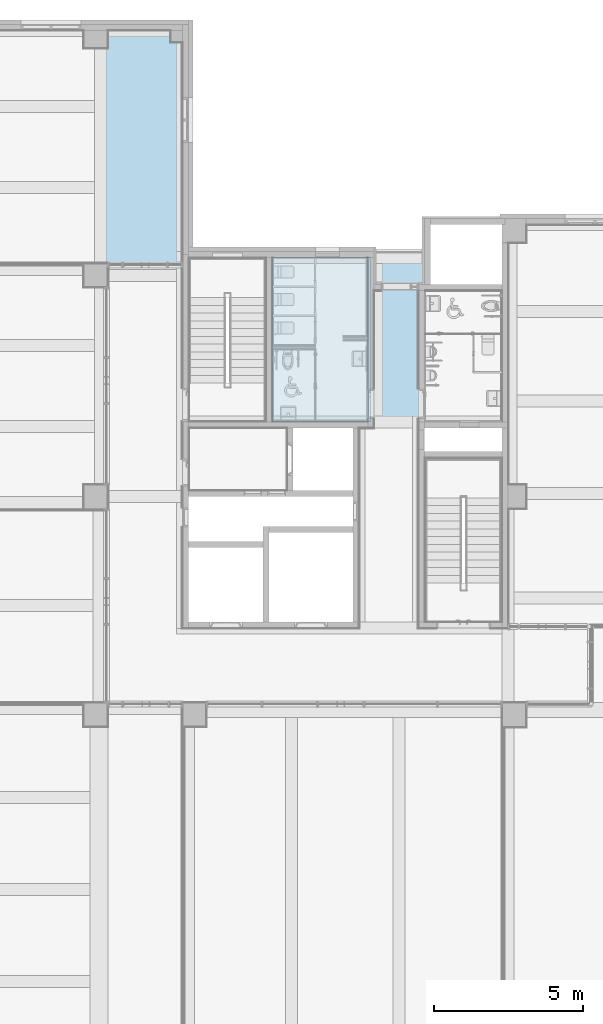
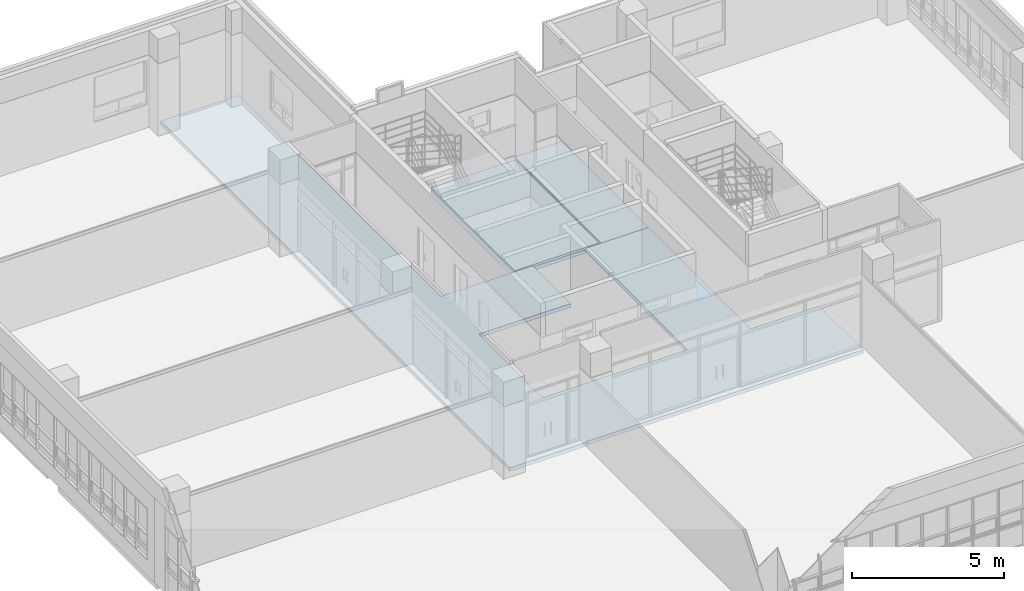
# One storey, part 29 of 81: 4 slabs.
"""IFC2X3 building model written with IfcOpenShell, lengths in millimetres."""

from ifc_helpers import new_model, entity, si_unit, converted_unit, derived_unit, direction, frame, frame_2d, origin, place, context, subcontext, project, spatial, polyline, rectangle, outline, extrude, material, layer, layer_set, layer_usage, type_object, element, save


model = new_model("IFC2X3")

# Units and contexts
model_context = context("Model", 3, precision=0.01, world=origin(), true_north=direction((6.123031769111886e-17, 1.0)))
body_context = subcontext(model_context, "Body", "Model", "MODEL_VIEW")
ifc_project = project(units=[si_unit("LENGTHUNIT", "METRE", prefix="MILLI"), si_unit("AREAUNIT", "SQUARE_METRE"), si_unit("VOLUMEUNIT", "CUBIC_METRE"), converted_unit("PLANEANGLEUNIT", "DEGREE", entity("IfcRatioMeasure", 0.017453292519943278), si_unit("PLANEANGLEUNIT", "RADIAN"), dimensions=[0, 0, 0, 0, 0, 0, 0]), si_unit("MASSUNIT", "GRAM", prefix="KILO"), derived_unit("MASSDENSITYUNIT", [(si_unit("MASSUNIT", "GRAM", prefix="KILO"), 1), (si_unit("LENGTHUNIT", "METRE"), -3)]), derived_unit("MOMENTOFINERTIAUNIT", [(si_unit("LENGTHUNIT", "METRE"), 4)]), si_unit("TIMEUNIT", "SECOND"), si_unit("FREQUENCYUNIT", "HERTZ"), si_unit("THERMODYNAMICTEMPERATUREUNIT", "DEGREE_CELSIUS"), derived_unit("THERMALTRANSMITTANCEUNIT", [(si_unit("MASSUNIT", "GRAM", prefix="KILO"), 1), (si_unit("THERMODYNAMICTEMPERATUREUNIT", "KELVIN"), -1), (si_unit("TIMEUNIT", "SECOND"), -3)]), derived_unit("VOLUMETRICFLOWRATEUNIT", [(si_unit("LENGTHUNIT", "METRE"), 3), (si_unit("TIMEUNIT", "SECOND"), -1)]), derived_unit("MASSFLOWRATEUNIT", [(si_unit("MASSUNIT", "GRAM", prefix="KILO"), 1), (si_unit("TIMEUNIT", "SECOND"), -1)]), derived_unit("ROTATIONALFREQUENCYUNIT", [(si_unit("TIMEUNIT", "SECOND"), -1)]), si_unit("ELECTRICCURRENTUNIT", "AMPERE"), si_unit("ELECTRICVOLTAGEUNIT", "VOLT"), si_unit("POWERUNIT", "WATT"), si_unit("FORCEUNIT", "NEWTON", prefix="KILO"), si_unit("ILLUMINANCEUNIT", "LUX"), si_unit("LUMINOUSFLUXUNIT", "LUMEN"), si_unit("LUMINOUSINTENSITYUNIT", "CANDELA"), derived_unit("USERDEFINED", [(si_unit("MASSUNIT", "GRAM", prefix="KILO"), -1), (si_unit("LENGTHUNIT", "METRE"), -2), (si_unit("TIMEUNIT", "SECOND"), 3), (si_unit("LUMINOUSFLUXUNIT", "LUMEN"), 1)]), derived_unit("SOUNDPOWERUNIT", [(si_unit("MASSUNIT", "GRAM", prefix="KILO"), 1), (si_unit("LENGTHUNIT", "METRE"), 2), (si_unit("TIMEUNIT", "SECOND"), -3)]), derived_unit("SOUNDPRESSUREUNIT", [(si_unit("MASSUNIT", "GRAM", prefix="KILO"), 1), (si_unit("LENGTHUNIT", "METRE"), -1), (si_unit("TIMEUNIT", "SECOND"), -2)]), derived_unit("LINEARVELOCITYUNIT", [(si_unit("LENGTHUNIT", "METRE"), 1), (si_unit("TIMEUNIT", "SECOND"), -1)]), si_unit("PRESSUREUNIT", "PASCAL"), derived_unit("USERDEFINED", [(si_unit("LENGTHUNIT", "METRE"), -2), (si_unit("MASSUNIT", "GRAM", prefix="KILO"), 1), (si_unit("TIMEUNIT", "SECOND"), -2)]), derived_unit("LINEARFORCEUNIT", [(si_unit("MASSUNIT", "GRAM", prefix="KILO"), 1), (si_unit("LENGTHUNIT", "METRE"), 1), (si_unit("TIMEUNIT", "SECOND"), -2), (si_unit("LENGTHUNIT", "METRE"), -1)]), derived_unit("PLANARFORCEUNIT", [(si_unit("MASSUNIT", "GRAM", prefix="KILO"), 1), (si_unit("LENGTHUNIT", "METRE"), 1), (si_unit("TIMEUNIT", "SECOND"), -2), (si_unit("LENGTHUNIT", "METRE"), -2)])], contexts=[model_context])

# Site, building, storey
site_placement = place(None, frame((-14167.972527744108, -657.2125860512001, 0.0)))
site = spatial("IfcSite", under=ifc_project, at=site_placement, Name="Default", CompositionType="ELEMENT")
building_placement = place(site_placement, origin())
building = spatial("IfcBuilding", under=site, at=building_placement, Name="Sample Building", CompositionType="ELEMENT")
storey_placement = place(building_placement, frame((0.0, 0.0, 13400.0)))
storey = spatial("IfcBuildingStorey", under=building, at=storey_placement, Name="지상 4층", CompositionType="ELEMENT", Elevation=13400.00000000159)

# Slabs
ifc_material_1 = material(Name="KBIMS-콘크리트")
ifc_layer_1 = layer(ifc_material_1, 150.0)
ifc_layer_set_1 = layer_set([ifc_layer_1], Name="바닥:SL111-철근콘크리트구조 바닥 150mm_S3")
ifc_layer_usage_1 = layer_usage(ifc_layer_set_1, "AXIS3", "POSITIVE", 0.0)
slab_type_1 = type_object("IfcSlabType", Name="바닥:SL111-철근콘크리트구조 바닥 150mm_S3", PredefinedType="FLOOR", material=ifc_layer_set_1)
slab_1_placement = place(storey_placement, origin())
element("IfcSlab", 1, at=slab_1_placement, inside=storey, type_object=slab_type_1, material=ifc_layer_usage_1, Name="바닥:SL111-철근콘크리트구조 바닥 150mm_S3", ObjectType="바닥:SL111-철근콘크리트구조 바닥 150mm_S3", PredefinedType="FLOOR", context=body_context, shape_type="SweptSolid", body=[
    extrude(outline(polyline([(-6919.374998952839, -6006.152322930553), (16030.625001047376, -6006.152322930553), (16030.625001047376, -3056.267710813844), (2730.6250172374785, -3056.2677108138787), (2730.6250172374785, 443.74101878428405), (230.62501389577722, 443.74101878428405), (230.62501389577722, -3056.267674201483), (-3969.3749989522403, -3056.267674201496), (-3969.3749989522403, 2443.7410187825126), (2730.625017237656, 2443.7410187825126), (2730.625017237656, 4843.732325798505), (-3964.375052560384, 4843.732325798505), (-3964.375052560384, 7443.741018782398), (-6869.374998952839, 7443.741018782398), (-6869.374998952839, -3056.2676742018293), (-6919.374998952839, -3056.2676742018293), (-6919.374998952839, -6006.152322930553)])), frame((33324.2314723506, 19726.587294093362, 0.0), z_axis=(0.0, 0.0, -1.0), x_axis=(0.0, 1.0, 0.0)), (0.0, 0.0, 1.0), 150.00000000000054),
])
ifc_layer_2 = layer(ifc_material_1, 150.0)
ifc_layer_set_2 = layer_set([ifc_layer_2], Name="바닥:SL111-철근콘크리트구조 바닥 150mm_S4")
ifc_layer_usage_2 = layer_usage(ifc_layer_set_2, "AXIS3", "POSITIVE", 0.0)
slab_type_2 = type_object("IfcSlabType", Name="바닥:SL111-철근콘크리트구조 바닥 150mm_S4", PredefinedType="FLOOR", material=ifc_layer_set_2)
slab_2_placement = place(storey_placement, origin())
element("IfcSlab", 2, at=slab_2_placement, inside=storey, type_object=slab_type_2, material=ifc_layer_usage_2, Name="바닥:SL111-철근콘크리트구조 바닥 150mm_S4", ObjectType="바닥:SL111-철근콘크리트구조 바닥 150mm_S4", PredefinedType="FLOOR", context=body_context, shape_type="SweptSolid", body=[
    extrude(rectangle(XDim=5699.999805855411, YDim=1799.9825708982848, at=frame_2d((-2.2737367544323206e-12, 0.0), x_axis=(1.0, 0.0))), frame((37267.963776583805, 25307.212214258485, 0.0), z_axis=(0.0, 0.0, -1.0), x_axis=(0.0, 1.0, 0.0)), (0.0, 0.0, 1.0), 150.00000000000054),
])
ifc_layer_usage_3 = layer_usage(ifc_layer_set_2, "AXIS3", "POSITIVE", 0.0)
slab_type_3 = type_object("IfcSlabType", Name="바닥:SL111-철근콘크리트구조 바닥 150mm_S4", PredefinedType="FLOOR")
slab_3_placement = place(storey_placement, frame((33067.972491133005, 22457.21230348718, -200.0)))
element("IfcSlab", 3, at=slab_3_placement, inside=storey, type_object=slab_type_3, material=ifc_layer_usage_3, Name="바닥:SL111-철근콘크리트구조 바닥 150mm_S4", ObjectType="바닥:SL111-철근콘크리트구조 바닥 150mm_S4", PredefinedType="FLOOR", context=body_context, shape_type="SweptSolid", body=[
    extrude(rectangle(XDim=5499.999996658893, YDim=3300.000000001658, at=frame_2d((2199.9956319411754, 3.921798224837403e-06), x_axis=(0.0, -1.0))), frame((3849.9956319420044, 2750.0, 150.0), z_axis=(0.0, 0.0, -1.0), x_axis=(-1.0, 0.0, 0.0)), (0.0, 0.0, 1.0), 150.00000000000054),
])
ifc_material_2 = material(Name="SL351-자기질타일 바닥 (바탕32mm, 압착8mm)")
ifc_layer_3 = layer(ifc_material_2, 40.0)
ifc_material_3 = material(Name="SL553-보호모르타르 바닥 (콘크리트면) 30mm")
ifc_layer_4 = layer(ifc_material_3, 30.0)
ifc_material_4 = material(Name="SL521-도막방수 바닥 (비노출) 3mm")
ifc_layer_5 = layer(ifc_material_4, 3.0)
ifc_material_5 = material(Name="SL551-시멘트모르타르 미장 바닥 17mm")
ifc_layer_6 = layer(ifc_material_5, 17.0)
ifc_layer_set_3 = layer_set([ifc_layer_3, ifc_layer_4, ifc_layer_5, ifc_layer_6], Name="바닥:A1-14-03A-시멘트모르타르(고름용), 도막방수, 시멘트모르타르(보호용), 자기질타일 (90mm)")
ifc_layer_usage_4 = layer_usage(ifc_layer_set_3, "AXIS3", "POSITIVE", 0.0)
slab_type_4 = type_object("IfcSlabType", Name="바닥:A1-14-03A-시멘트모르타르(고름용), 도막방수, 시멘트모르타르(보호용), 자기질타일 (90mm)", PredefinedType="FLOOR", material=ifc_layer_set_3)
slab_4_placement = place(storey_placement, origin())
element("IfcSlab", 4, at=slab_4_placement, inside=storey, type_object=slab_type_4, material=ifc_layer_usage_4, Name="바닥:A1-14-03A-시멘트모르타르(고름용), 도막방수, 시멘트모르타르(보호용), 자기질타일 (90mm)", ObjectType="바닥:A1-14-03A-시멘트모르타르(고름용), 도막방수, 시멘트모르타르(보호용), 자기질타일 (90mm)", PredefinedType="FLOOR", context=body_context, shape_type="SweptSolid", body=[
    extrude(rectangle(XDim=5499.999996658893, YDim=3199.99130701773, at=frame_2d((0.0, -2.1600499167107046e-12), x_axis=(1.0, 0.0))), frame((34667.96814464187, 25207.212309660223, 40.0), z_axis=(0.0, 0.0, -1.0), x_axis=(0.0, 1.0, 0.0)), (0.0, 0.0, 1.0), 89.99999999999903),
])

save(model, "model.ifc")
